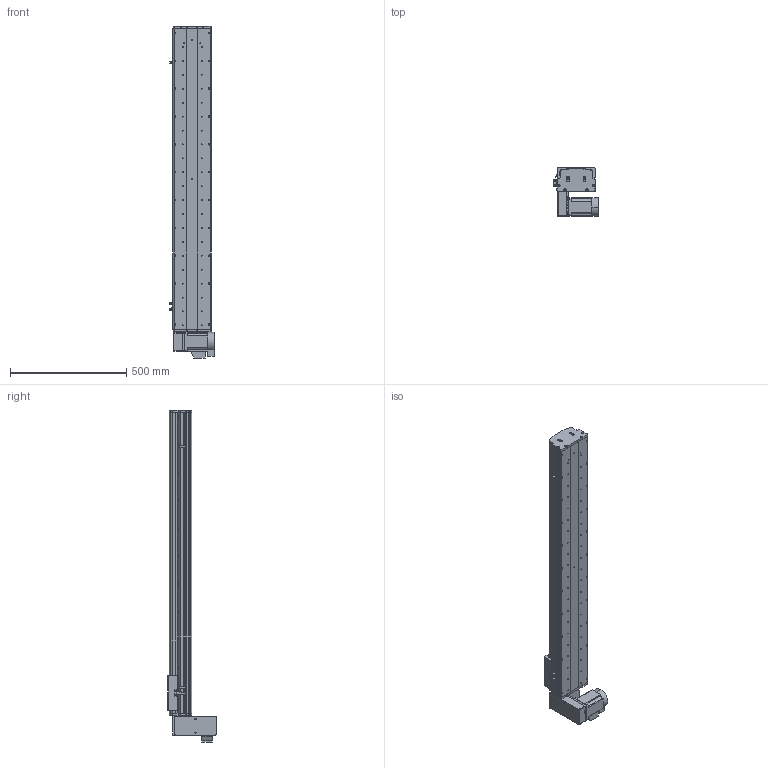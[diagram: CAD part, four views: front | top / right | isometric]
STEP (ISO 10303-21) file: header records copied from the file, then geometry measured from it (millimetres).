
FILE_DESCRIPTION (( 'STEP AP214' ), '1' );
FILE_NAME ('KSD165B-S1050-MLD-CM.STEP', '2017-10-16T07:14:22', ( '微软用户' ), ( '微软中国' ), 'SwSTEP 2.0', 'SolidWorks 2014', '' );
FILE_SCHEMA (( 'AUTOMOTIVE_DESIGN' ));
Length unit declared in the file: millimetre
Products named in the file (17): 130宽模组马达安装板连板上下折丝杆同步带; 130宽模组保护罩上下左右折-同步带; HTPA26S5M250-A-H8 750W萇儂蚚; HTPA26S5M250-A-H8 400W萇儂蚚 ; 165宽马达安装板同步带左-改; KSD165模组-同步带防尘盖1-1050行程; KSD165模组同步带底板-1050行程; 拸秶雄ん750W侜督萇儂; U倰嫖萇假蚾璃; U倰嫖萇EEㄜSX672; 覜茼え68遵圉猾敕; KSD165模组-同步带-防撞垫2; KSD165模组同步带-防撞垫1; KSD165耀郪-ヶ傷啣1-肮祭湍; KSD165模组-后端板1-同步带; KSD165模组-同步带滑动座-最新版; KSD165B-S1050-MLD-CM
Assembly tree (20 placements, depth 2):
  KSD165B-S1050-MLD-CM
    KSD165模组-同步带滑动座-最新版
    KSD165模组-后端板1-同步带
    KSD165耀郪-ヶ傷啣1-肮祭湍
    KSD165模组同步带-防撞垫1
    KSD165模组-同步带-防撞垫2
    覜茼え68遵圉猾敕
    U倰嫖萇EEㄜSX672  x3
    U倰嫖萇假蚾璃  x3
    拸秶雄ん750W侜督萇儂
    KSD165模组同步带底板-1050行程
    KSD165模组-同步带防尘盖1-1050行程
    165宽马达安装板同步带左-改
    HTPA26S5M250-A-H8 400W萇儂蚚 
    HTPA26S5M250-A-H8 750W萇儂蚚
    130宽模组保护罩上下左右折-同步带
    130宽模组马达安装板连板上下折丝杆同步带
Bounding box: 191.2 x 210 x 1431 mm (x, y, z)
Volume: 8143908.5 mm3; surface area: 1894127.3 mm2
Topology: 21 solids, 22 shells, 1983 faces, 5598 edges, 3656 vertices
Faces by surface type: cylinder 1281, plane 590, cone 112
Entity records: 64576 total; most frequent: CARTESIAN_POINT 13218, DIRECTION 10598, ORIENTED_EDGE 9856, EDGE_CURVE 4928, AXIS2_PLACEMENT_3D 4162, VERTEX_POINT 3248, CIRCLE 2376, LINE 2274
